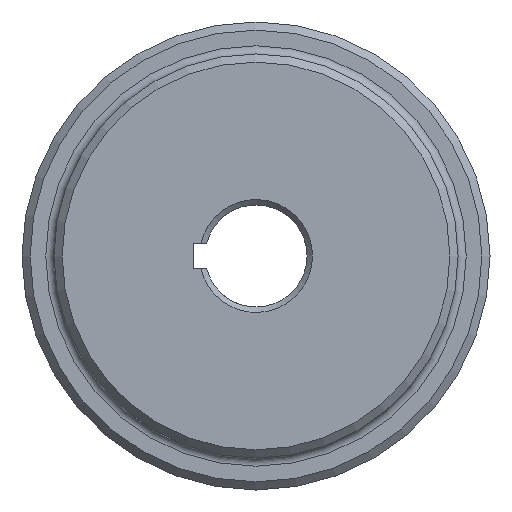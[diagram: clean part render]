
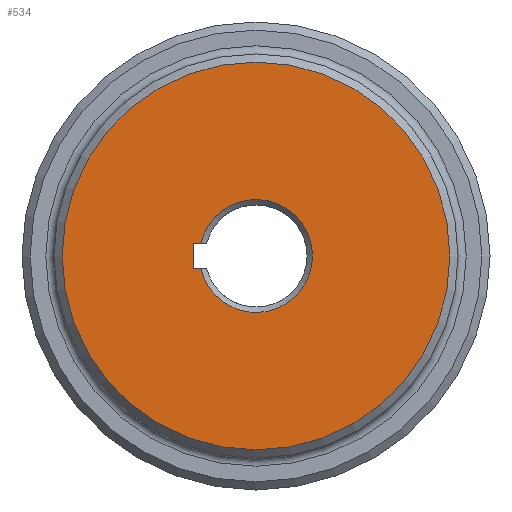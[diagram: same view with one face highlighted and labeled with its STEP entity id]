
A CAD part, left-side view. The second image highlights one B-rep face of the part: STEP entity #534.
In plain terms, the highlighted planar face has unit normal (-1, 0, 0).
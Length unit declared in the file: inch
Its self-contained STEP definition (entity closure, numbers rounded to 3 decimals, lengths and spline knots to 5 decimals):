
#41 = CARTESIAN_POINT ( 'NONE',  ( 0., 0., 0. ) ) ;
#76 = DIRECTION ( 'NONE',  ( 0., 0., -1. ) ) ;
#135 = CARTESIAN_POINT ( 'NONE',  ( 0., 0., -1.425 ) ) ;
#184 = VERTEX_POINT ( 'NONE', #205 ) ;
#205 = CARTESIAN_POINT ( 'NONE',  ( 0., 0.46285, 0.0935 ) ) ;
#225 = EDGE_LOOP ( 'NONE', ( #1961 ) ) ;
#250 = EDGE_CURVE ( 'NONE', #1614, #1614, #612, .T. ) ;
#269 = CARTESIAN_POINT ( 'NONE',  ( 0., 0., 0.0935 ) ) ;
#489 = AXIS2_PLACEMENT_3D ( 'NONE', #893, #1483, #76 ) ;
#534 = ADVANCED_FACE ( 'NONE', ( #1517, #1980 ), #1012, .F. ) ;
#535 = CARTESIAN_POINT ( 'NONE',  ( 0., 0., -0.0935 ) ) ;
#540 = DIRECTION ( 'NONE',  ( 0., 0., -1. ) ) ;
#577 = VECTOR ( 'NONE', #540, 39.37008 ) ;
#587 = DIRECTION ( 'NONE',  ( 0., 0., -1. ) ) ;
#612 = CIRCLE ( 'NONE', #2154, 1.425 ) ;
#650 = LINE ( 'NONE', #1011, #577 ) ;
#678 = VERTEX_POINT ( 'NONE', #1774 ) ;
#887 = DIRECTION ( 'NONE',  ( 0., -1., 0. ) ) ;
#893 = CARTESIAN_POINT ( 'NONE',  ( 0., 0., 0. ) ) ;
#939 = DIRECTION ( 'NONE',  ( -1., 0., 0. ) ) ;
#1011 = CARTESIAN_POINT ( 'NONE',  ( 0., 0.46285, -0.0935 ) ) ;
#1012 = PLANE ( 'NONE',  #489 ) ;
#1109 = ORIENTED_EDGE ( 'NONE', *, *, #1916, .F. ) ;
#1136 = EDGE_CURVE ( 'NONE', #2354, #2164, #1832, .T. ) ;
#1295 = DIRECTION ( 'NONE',  ( 0., 1., 0. ) ) ;
#1318 = DIRECTION ( 'NONE',  ( 0., 0., -1. ) ) ;
#1429 = CARTESIAN_POINT ( 'NONE',  ( 0., 0.40448, -0.0935 ) ) ;
#1482 = DIRECTION ( 'NONE',  ( 1., 0., 0. ) ) ;
#1483 = DIRECTION ( 'NONE',  ( 1., 0., 0. ) ) ;
#1517 = FACE_OUTER_BOUND ( 'NONE', #225, .T. ) ;
#1614 = VERTEX_POINT ( 'NONE', #135 ) ;
#1633 = EDGE_CURVE ( 'NONE', #678, #2164, #2084, .T. ) ;
#1688 = ORIENTED_EDGE ( 'NONE', *, *, #1136, .T. ) ;
#1751 = AXIS2_PLACEMENT_3D ( 'NONE', #41, #1482, #1318 ) ;
#1752 = VECTOR ( 'NONE', #1295, 39.37008 ) ;
#1774 = CARTESIAN_POINT ( 'NONE',  ( 0., 0.46285, -0.0935 ) ) ;
#1804 = EDGE_LOOP ( 'NONE', ( #2072, #1688, #1954, #1109 ) ) ;
#1832 = CIRCLE ( 'NONE', #1751, 0.41515 ) ;
#1852 = VECTOR ( 'NONE', #887, 39.37008 ) ;
#1886 = LINE ( 'NONE', #269, #1752 ) ;
#1916 = EDGE_CURVE ( 'NONE', #184, #678, #650, .T. ) ;
#1954 = ORIENTED_EDGE ( 'NONE', *, *, #1633, .F. ) ;
#1961 = ORIENTED_EDGE ( 'NONE', *, *, #250, .T. ) ;
#1980 = FACE_BOUND ( 'NONE', #1804, .T. ) ;
#2072 = ORIENTED_EDGE ( 'NONE', *, *, #2367, .F. ) ;
#2084 = LINE ( 'NONE', #535, #1852 ) ;
#2141 = CARTESIAN_POINT ( 'NONE',  ( 0., 0., 0. ) ) ;
#2154 = AXIS2_PLACEMENT_3D ( 'NONE', #2141, #939, #587 ) ;
#2164 = VERTEX_POINT ( 'NONE', #1429 ) ;
#2304 = CARTESIAN_POINT ( 'NONE',  ( 0., 0.40448, 0.0935 ) ) ;
#2354 = VERTEX_POINT ( 'NONE', #2304 ) ;
#2367 = EDGE_CURVE ( 'NONE', #2354, #184, #1886, .T. ) ;
